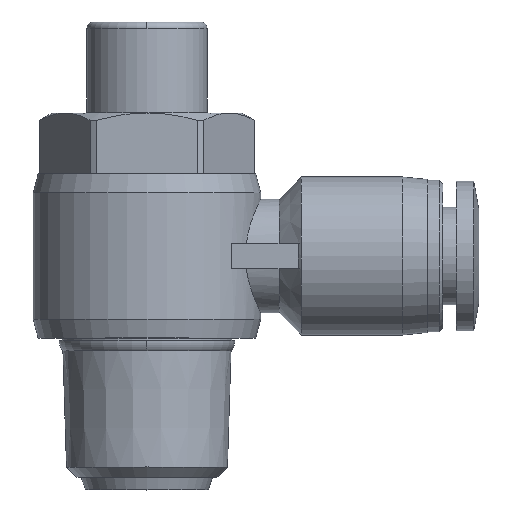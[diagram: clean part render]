
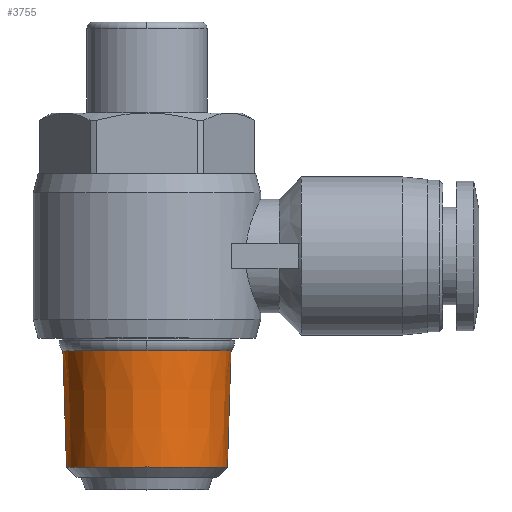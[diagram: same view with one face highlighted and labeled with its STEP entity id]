
A CAD part, top view. The second image highlights one B-rep face of the part: STEP entity #3755.
In plain terms, the highlighted conical face has half-angle 1.79 degrees and reference radius 6.506 mm.
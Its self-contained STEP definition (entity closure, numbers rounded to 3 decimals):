
#38 = EDGE_CURVE ( 'NONE', #1462, #1717, #1478, .T. ) ;
#159 = DIRECTION ( 'NONE',  ( 0., 1., 0. ) ) ;
#240 = DIRECTION ( 'NONE',  ( -0.031, 1., 0. ) ) ;
#286 = AXIS2_PLACEMENT_3D ( 'NONE', #3216, #464, #2870 ) ;
#290 = CONICAL_SURFACE ( 'NONE', #3674, 6.506, 0.031 ) ;
#409 = CIRCLE ( 'NONE', #286, 6.65 ) ;
#464 = DIRECTION ( 'NONE',  ( 0., 1., 0. ) ) ;
#581 = AXIS2_PLACEMENT_3D ( 'NONE', #1060, #159, #3840 ) ;
#602 = VECTOR ( 'NONE', #3882, 1000. ) ;
#776 = CARTESIAN_POINT ( 'NONE',  ( 6.506, 6.4, 0. ) ) ;
#1049 = CARTESIAN_POINT ( 'NONE',  ( 6.65, 11., 0. ) ) ;
#1060 = CARTESIAN_POINT ( 'NONE',  ( 0., 11., 0. ) ) ;
#1072 = EDGE_LOOP ( 'NONE', ( #3863, #3379, #3184, #1945, #2364 ) ) ;
#1088 = FACE_OUTER_BOUND ( 'NONE', #1072, .T. ) ;
#1114 = LINE ( 'NONE', #3543, #1650 ) ;
#1142 = DIRECTION ( 'NONE',  ( -1., 0., 0. ) ) ;
#1285 = VERTEX_POINT ( 'NONE', #3478 ) ;
#1399 = EDGE_CURVE ( 'NONE', #1612, #1285, #1114, .T. ) ;
#1462 = VERTEX_POINT ( 'NONE', #2927 ) ;
#1478 = CIRCLE ( 'NONE', #581, 6.65 ) ;
#1612 = VERTEX_POINT ( 'NONE', #2551 ) ;
#1645 = DIRECTION ( 'NONE',  ( 0., 1., 0. ) ) ;
#1650 = VECTOR ( 'NONE', #240, 1000. ) ;
#1717 = VERTEX_POINT ( 'NONE', #1049 ) ;
#1757 = VERTEX_POINT ( 'NONE', #2300 ) ;
#1945 = ORIENTED_EDGE ( 'NONE', *, *, #3510, .F. ) ;
#1951 = CARTESIAN_POINT ( 'NONE',  ( 0., 1.8, 0. ) ) ;
#2141 = AXIS2_PLACEMENT_3D ( 'NONE', #1951, #1645, #3244 ) ;
#2167 = EDGE_CURVE ( 'NONE', #1612, #1757, #2517, .T. ) ;
#2300 = CARTESIAN_POINT ( 'NONE',  ( 6.362, 1.8, 0. ) ) ;
#2364 = ORIENTED_EDGE ( 'NONE', *, *, #1399, .F. ) ;
#2517 = CIRCLE ( 'NONE', #2141, 6.362 ) ;
#2551 = CARTESIAN_POINT ( 'NONE',  ( -6.362, 1.8, 0. ) ) ;
#2671 = CARTESIAN_POINT ( 'NONE',  ( 0., 6.4, 0. ) ) ;
#2856 = EDGE_CURVE ( 'NONE', #1757, #1717, #2909, .T. ) ;
#2870 = DIRECTION ( 'NONE',  ( -1., 0., 0. ) ) ;
#2909 = LINE ( 'NONE', #776, #602 ) ;
#2927 = CARTESIAN_POINT ( 'NONE',  ( 0., 11., 6.65 ) ) ;
#3184 = ORIENTED_EDGE ( 'NONE', *, *, #38, .F. ) ;
#3216 = CARTESIAN_POINT ( 'NONE',  ( 0., 11., 0. ) ) ;
#3244 = DIRECTION ( 'NONE',  ( -1., 0., 0. ) ) ;
#3379 = ORIENTED_EDGE ( 'NONE', *, *, #2856, .T. ) ;
#3478 = CARTESIAN_POINT ( 'NONE',  ( -6.65, 11., 0. ) ) ;
#3510 = EDGE_CURVE ( 'NONE', #1285, #1462, #409, .T. ) ;
#3543 = CARTESIAN_POINT ( 'NONE',  ( -6.506, 6.4, 0. ) ) ;
#3674 = AXIS2_PLACEMENT_3D ( 'NONE', #2671, #3883, #1142 ) ;
#3755 = ADVANCED_FACE ( 'NONE', ( #1088 ), #290, .T. ) ;
#3840 = DIRECTION ( 'NONE',  ( -1., 0., 0. ) ) ;
#3863 = ORIENTED_EDGE ( 'NONE', *, *, #2167, .T. ) ;
#3882 = DIRECTION ( 'NONE',  ( 0.031, 1., 0. ) ) ;
#3883 = DIRECTION ( 'NONE',  ( 0., 1., 0. ) ) ;
